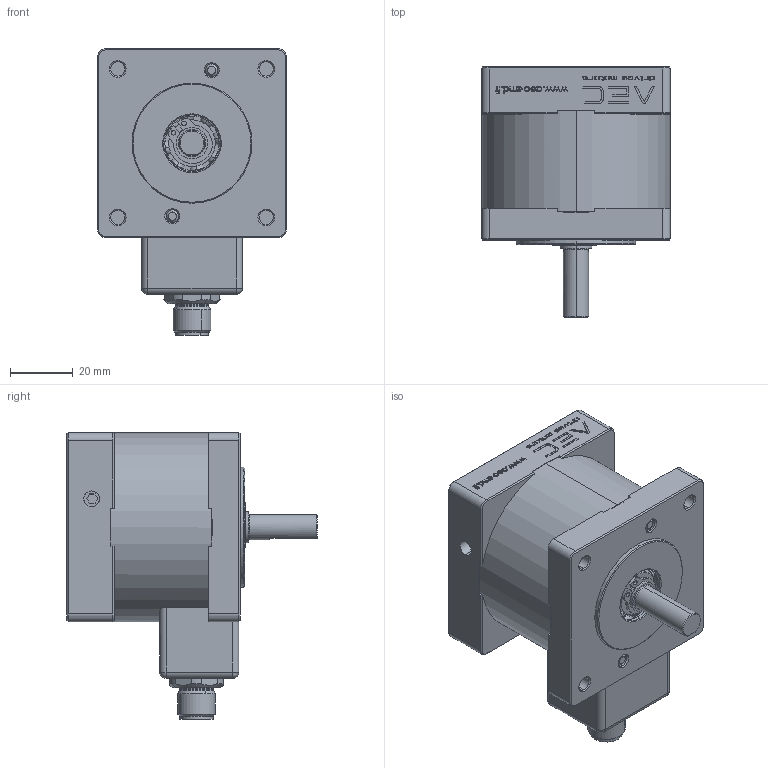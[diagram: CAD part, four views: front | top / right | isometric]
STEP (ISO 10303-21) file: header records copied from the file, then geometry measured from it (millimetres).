
FILE_DESCRIPTION (( 'STEP AP214' ), '1' );
FILE_NAME ('EB23-063-063-C.STEP', '2025-05-10T07:37:50', ( '' ), ( '' ), 'SwSTEP 2.0', 'SolidWorks 2019', '' );
FILE_SCHEMA (( 'AUTOMOTIVE_DESIGN' ));
Length unit declared in the file: millimetre
Products named in the file (1): EB23-063-063-C
Bounding box: 60 x 79.5 x 91 mm (x, y, z)
Volume: 168308.2 mm3; surface area: 75709.3 mm2
Topology: 14 solids, 17 shells, 1269 faces, 3304 edges, 2128 vertices
Faces by surface type: plane 526, cylinder 314, bspline 174, cone 143, sphere 68, torus 44
Entity records: 62968 total; most frequent: CARTESIAN_POINT 18552, ORIENTED_EDGE 6552, DIRECTION 5829, EDGE_CURVE 3276, VERTEX_POINT 2128, AXIS2_PLACEMENT_3D 2065, LINE 1699, VECTOR 1699
